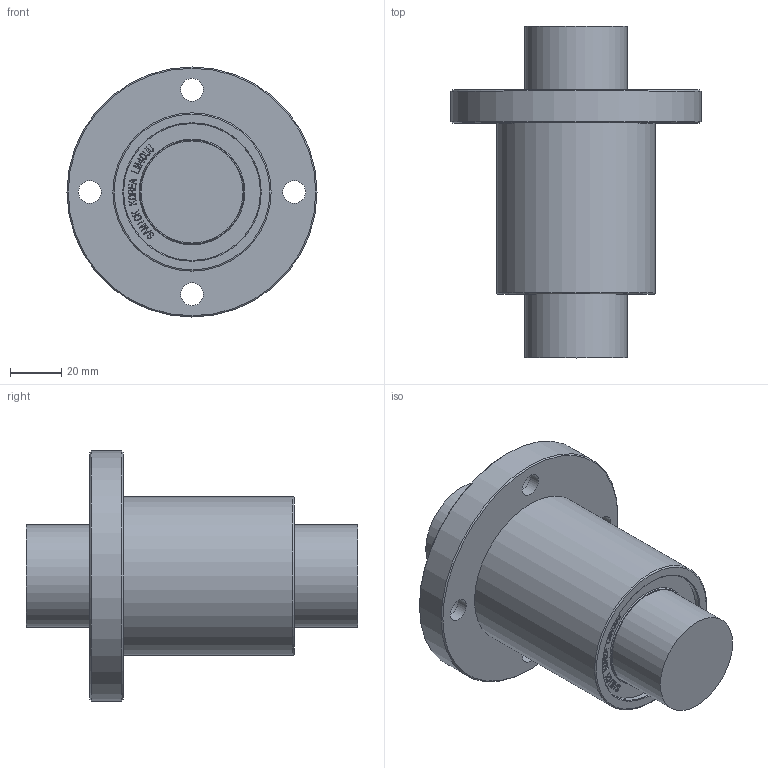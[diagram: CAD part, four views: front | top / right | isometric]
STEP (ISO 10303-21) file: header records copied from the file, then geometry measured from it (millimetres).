
FILE_DESCRIPTION(/* description */ (''),/* implementation_level */ '2;1');
FILE_NAME(/* name */ 'W:\(01) 2024년 홈페이지 CAD파일 최신화\LMEF\IPT\LMEF40UU.stp',/* time_stamp */ '2025-01-25T10:28:09+09:00',/* author */ ('서우현'),/* organization */ (''),/* preprocessor_version */ 'ST-DEVELOPER v17.2',/* originating_system */ 'Autodesk Inventor 2019',/* authorisation */ '');
FILE_SCHEMA (('AUTOMOTIVE_DESIGN { 1 0 10303 214 3 1 1 }'));
Length unit declared in the file: millimetre
Products named in the file (1): LM5
Bounding box: 98 x 130 x 98 mm (x, y, z)
Volume: 352091.3 mm3; surface area: 41141.8 mm2
Topology: 1 solids, 1 shells, 837 faces, 2357 edges, 1580 vertices
Faces by surface type: bspline 572, plane 242, cylinder 15, cone 6, torus 2
Full cylindrical faces by diameter (mm): 9 x4, 14 x4, 40 x2, 53.65 x2, 62 x2, 98 x1
Entity records: 28841 total; most frequent: CARTESIAN_POINT 10607, ORIENTED_EDGE 4714, EDGE_CURVE 2357, DIRECTION 1819, VERTEX_POINT 1580, B_SPLINE_CURVE_WITH_KNOTS 1144, LINE 1139, VECTOR 1139
